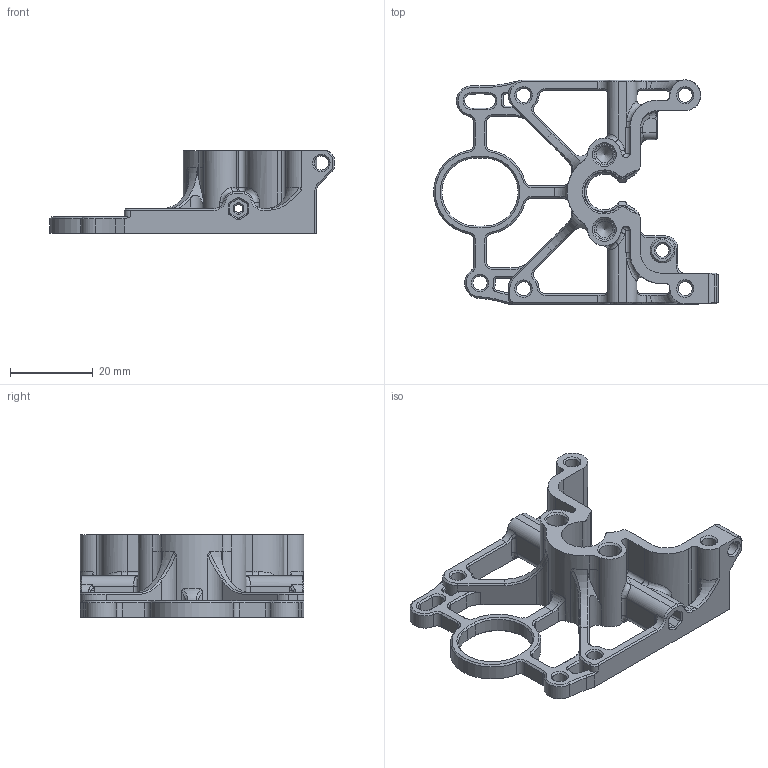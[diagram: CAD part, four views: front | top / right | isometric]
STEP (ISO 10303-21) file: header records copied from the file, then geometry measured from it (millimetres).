
FILE_DESCRIPTION(/* description */ (''),/* implementation_level */ '2;1');
FILE_NAME(/* name */ 'C:/Users/Anton/Documents/Git/geared-extruder/folded-103t/alpha2/CAD/sherpa_103_folded_a2_housing_core_dd.step',/* time_stamp */ '2020-04-25T01:41:33+03:00',/* author */ (''),/* organization */ (''),/* preprocessor_version */ 'ST-DEVELOPER v18.1',/* originating_system */ 'Autodesk Translation Framework v9.2.0.1227',/* authorisation */ '');
FILE_SCHEMA (('AUTOMOTIVE_DESIGN { 1 0 10303 214 3 1 1 }'));
Length unit declared in the file: millimetre
Products named in the file (1): housing_core
Bounding box: 68.7 x 54 x 20 mm (x, y, z)
Volume: 12441.6 mm3; surface area: 10697.6 mm2
Topology: 1 solids, 1 shells, 602 faces, 1561 edges, 955 vertices
Faces by surface type: plane 175, cylinder 172, cone 132, bspline 103, torus 18, sphere 2
Full cylindrical faces by diameter (mm): 3.2 x1, 3.4 x6, 4 x4, 5 x3, 6 x1
Entity records: 24411 total; most frequent: CARTESIAN_POINT 10146, ORIENTED_EDGE 3112, DIRECTION 2798, EDGE_CURVE 1556, AXIS2_PLACEMENT_3D 1020, VERTEX_POINT 955, LINE 758, VECTOR 758
